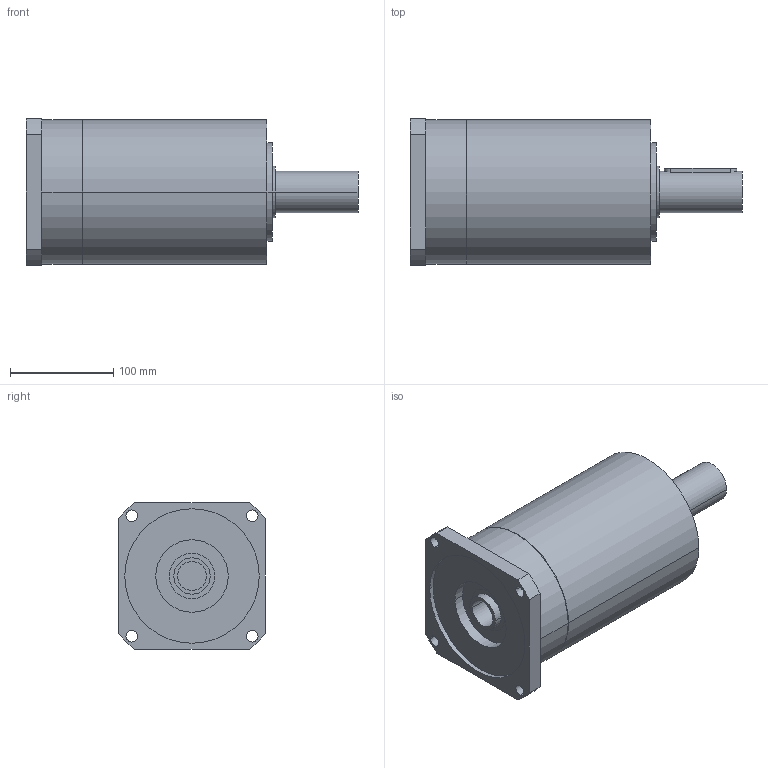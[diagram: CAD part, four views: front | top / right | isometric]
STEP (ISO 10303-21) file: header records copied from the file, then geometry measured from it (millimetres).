
FILE_DESCRIPTION(('CoCreate Modeling STEP Export'),'2;1');
FILE_NAME('GPR150_ig-9-12-16-20-28-35_40_B14_28_P05.stp','2014-08-19T17:03:46',(''),(''),'CoCreate Modeling STEP processor for AP214 (Solid Model)','CoCreate Modeling 16.00C 25-Feb-2009 (C) Parametric Technology GmbH','');
FILE_SCHEMA(('AUTOMOTIVE_DESIGN { 1 0 10303 214 1 1 1 1 }'));
Length unit declared in the file: millimetre
Products named in the file (2): GPR150_ig-9-12-16-20-28-35_40_B14_28_P05
Assembly tree (1 placements, depth 2):
  GPR150_ig-9-12-16-20-28-35_40_B14_28_P05
    GPR150_ig-9-12-16-20-28-35_40_B14_28_P05
Bounding box: 321 x 142 x 142 mm (x, y, z)
Volume: 3636058.6 mm3; surface area: 174388.3 mm2
Topology: 1 solids, 1 shells, 73 faces, 195 edges, 137 vertices
Faces by surface type: cylinder 44, plane 23, cone 6
Entity records: 2033 total; most frequent: CARTESIAN_POINT 395, ORIENTED_EDGE 386, DIRECTION 272, EDGE_CURVE 193, VERTEX_POINT 137, AXIS2_PLACEMENT_3D 102, EDGE_LOOP 96, FACE_OUTER_BOUND 73
